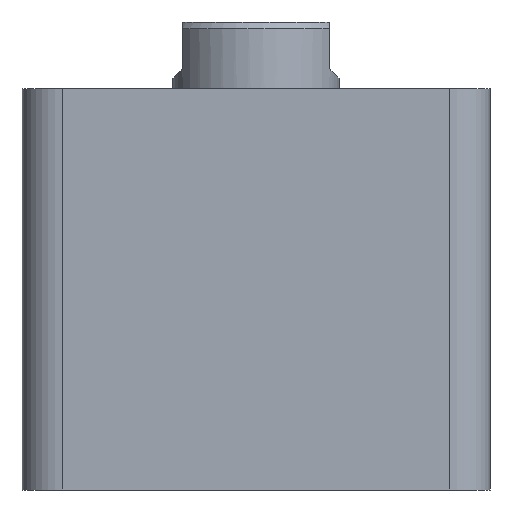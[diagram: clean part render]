
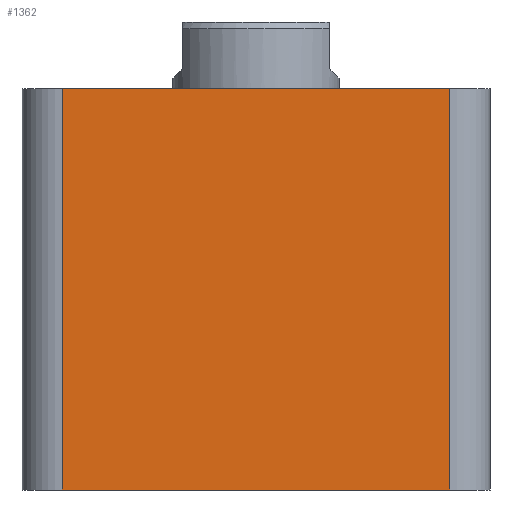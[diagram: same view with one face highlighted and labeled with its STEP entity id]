
A CAD part, front view. The second image highlights one B-rep face of the part: STEP entity #1362.
In plain terms, the highlighted planar face has unit normal (0, -1, 0).
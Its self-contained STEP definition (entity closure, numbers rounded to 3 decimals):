
#62 = EDGE_LOOP ( 'NONE', ( #450, #568, #590, #509 ) ) ;
#83 = VERTEX_POINT ( 'NONE', #1654 ) ;
#91 = VERTEX_POINT ( 'NONE', #1643 ) ;
#113 = VERTEX_POINT ( 'NONE', #1599 ) ;
#135 = VERTEX_POINT ( 'NONE', #1563 ) ;
#287 = VECTOR ( 'NONE', #2573, 1000. ) ;
#289 = VECTOR ( 'NONE', #2575, 1000. ) ;
#290 = LINE ( 'NONE', #2574, #287 ) ;
#291 = VECTOR ( 'NONE', #2589, 1000. ) ;
#293 = LINE ( 'NONE', #2590, #291 ) ;
#294 = LINE ( 'NONE', #2580, #289 ) ;
#400 = FACE_OUTER_BOUND ( 'NONE', #62, .T. ) ;
#450 = ORIENTED_EDGE ( 'NONE', *, *, #1493, .F. ) ;
#509 = ORIENTED_EDGE ( 'NONE', *, *, #1842, .T. ) ;
#568 = ORIENTED_EDGE ( 'NONE', *, *, #1492, .T. ) ;
#590 = ORIENTED_EDGE ( 'NONE', *, *, #1491, .T. ) ;
#1146 = VECTOR ( 'NONE', #2067, 1000. ) ;
#1149 = LINE ( 'NONE', #2069, #1146 ) ;
#1362 = ADVANCED_FACE ( 'NONE', ( #400 ), #1549, .F. ) ;
#1414 = AXIS2_PLACEMENT_3D ( 'NONE', #1554, #1545, #1544 ) ;
#1491 = EDGE_CURVE ( 'NONE', #135, #83, #293, .T. ) ;
#1492 = EDGE_CURVE ( 'NONE', #91, #135, #294, .T. ) ;
#1493 = EDGE_CURVE ( 'NONE', #91, #113, #290, .T. ) ;
#1544 = DIRECTION ( 'NONE',  ( 0., 0., 1. ) ) ;
#1545 = DIRECTION ( 'NONE',  ( 0., 1., 0. ) ) ;
#1549 = PLANE ( 'NONE',  #1414 ) ;
#1554 = CARTESIAN_POINT ( 'NONE',  ( -35., -35., 60. ) ) ;
#1563 = CARTESIAN_POINT ( 'NONE',  ( -29., -35., 0. ) ) ;
#1599 = CARTESIAN_POINT ( 'NONE',  ( 29., -35., 60. ) ) ;
#1643 = CARTESIAN_POINT ( 'NONE',  ( -29., -35., 60. ) ) ;
#1654 = CARTESIAN_POINT ( 'NONE',  ( 29., -35., 0. ) ) ;
#1842 = EDGE_CURVE ( 'NONE', #83, #113, #1149, .T. ) ;
#2067 = DIRECTION ( 'NONE',  ( 0., 0., 1. ) ) ;
#2069 = CARTESIAN_POINT ( 'NONE',  ( 29., -35., 60. ) ) ;
#2573 = DIRECTION ( 'NONE',  ( 1., 0., 0. ) ) ;
#2574 = CARTESIAN_POINT ( 'NONE',  ( -35., -35., 60. ) ) ;
#2575 = DIRECTION ( 'NONE',  ( 0., 0., -1. ) ) ;
#2580 = CARTESIAN_POINT ( 'NONE',  ( -29., -35., 60. ) ) ;
#2589 = DIRECTION ( 'NONE',  ( 1., 0., 0. ) ) ;
#2590 = CARTESIAN_POINT ( 'NONE',  ( -35., -35., 0. ) ) ;
